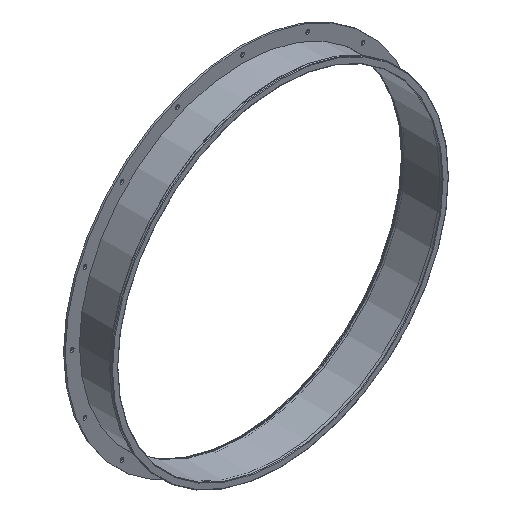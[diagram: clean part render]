
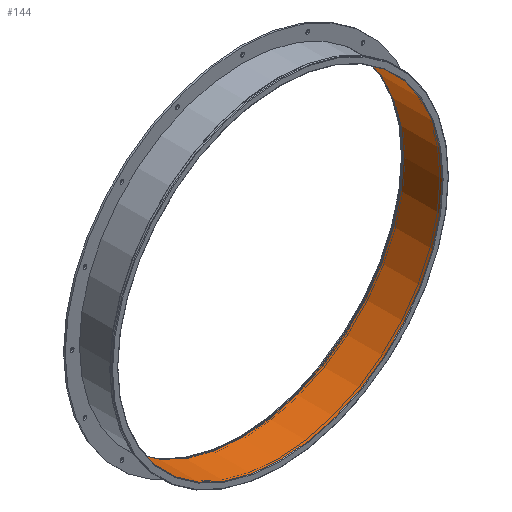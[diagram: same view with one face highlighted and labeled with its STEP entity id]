
A CAD part, isometric view. The second image highlights one B-rep face of the part: STEP entity #144.
In plain terms, the highlighted cylindrical face has radius 400 mm (diameter 800 mm), a full revolution.
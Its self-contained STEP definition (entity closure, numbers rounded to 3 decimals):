
#107=CYLINDRICAL_SURFACE('',#699,400.);
#144=ADVANCED_FACE('',(#189,#190),#107,.F.);
#189=FACE_BOUND('',#301,.T.);
#190=FACE_BOUND('',#302,.T.);
#301=EDGE_LOOP('',(#413));
#302=EDGE_LOOP('',(#414));
#413=ORIENTED_EDGE('',*,*,#580,.T.);
#414=ORIENTED_EDGE('',*,*,#581,.T.);
#524=VERTEX_POINT('',#996);
#525=VERTEX_POINT('',#998);
#580=EDGE_CURVE('',#524,#524,#636,.T.);
#581=EDGE_CURVE('',#525,#525,#637,.T.);
#636=CIRCLE('',#697,400.);
#637=CIRCLE('',#698,400.);
#697=AXIS2_PLACEMENT_3D('',#995,#806,#807);
#698=AXIS2_PLACEMENT_3D('',#997,#808,#809);
#699=AXIS2_PLACEMENT_3D('',#999,#810,#811);
#806=DIRECTION('',(0.,-1.,0.));
#807=DIRECTION('',(-1.,0.,0.));
#808=DIRECTION('',(0.,1.,0.));
#809=DIRECTION('',(1.,0.,0.));
#810=DIRECTION('',(0.,1.,0.));
#811=DIRECTION('',(1.,0.,0.));
#995=CARTESIAN_POINT('',(0.,1.2,0.));
#996=CARTESIAN_POINT('',(-400.,1.2,0.));
#997=CARTESIAN_POINT('',(0.,98.8,0.));
#998=CARTESIAN_POINT('',(400.,98.8,0.));
#999=CARTESIAN_POINT('',(0.,-192.076,0.));
